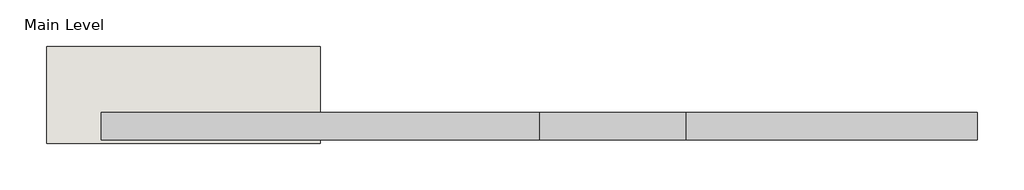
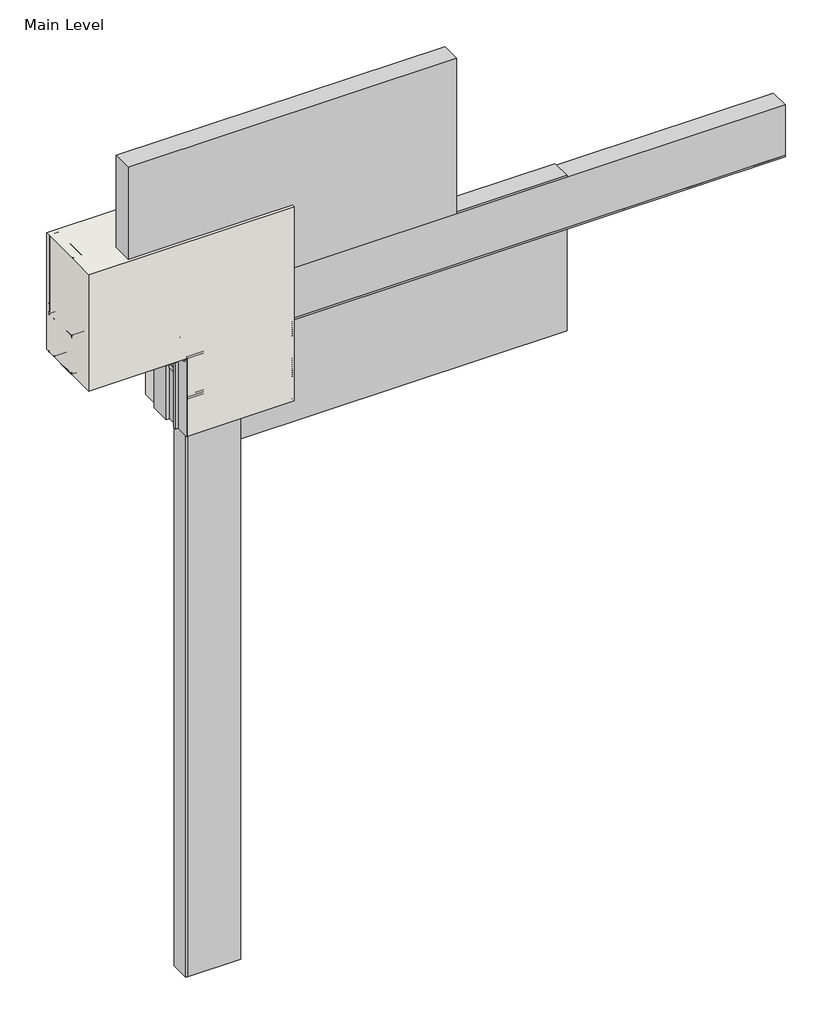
# One storey, incomplete: 20 proxies, 1 wall.
"""IFC4 building model written with IfcOpenShell, lengths in millimetres."""

from ifc_helpers import new_model, si_unit, frame, origin, place, context, project, spatial, polyline, outline, extrude, transform, mapped, element, save
from components import generic_models_31547c53, generic_models_0795693d, generic_models_cb092f88, generic_models_04f31e3c, generic_models_08e6521c, generic_models_d28646c3, proxy_4c3b85e5, proxy_81afb05a, proxy_e5e434bb, finish_coat_filler_finish_coat_filler_f99f7fa1, masonry_sill_masonry_sill_2c722ada, masonry_sill1_masonry_sill_fe5a3651, masonry_sill2_masonry_sill_6ded4e80, proxy_a3fd9b0b, proxy_3a0ad636, proxy_0073da47, sealant_sealant_3a8dd322, window_header_window_header_abd4ef46, wood_blocking_5320d369

model = new_model("IFC4")

# Units and contexts
model_context = context("Model", 3, world=origin())
ifc_project = project(units=[si_unit("LENGTHUNIT", "METRE", prefix="MILLI")], contexts=[model_context])

# Site, building, storey
site = spatial("IfcSite", under=ifc_project)
building = spatial("IfcBuilding", under=site)
storey = spatial("IfcBuildingStorey", under=building, Name="Main Level", Elevation=0.0)

# Proxies
placement = place(None, origin())
generic_models_shape = generic_models_31547c53(model_context)
element("IfcBuildingElementProxy", 1, Name="Durabond Generic Model Sealant Vent : Durabond Generic Model Sealant Vent", ObjectType="Durabond Generic Model Sealant Vent : Durabond Generic Model Sealant Vent", at=placement, inside=storey, context=model_context, shape_type="MappedRepresentation", body=[
    mapped(generic_models_shape, transform((26800.7195523, 547.6393211, 304.2607023), x_axis=(1.0, 0.0, 0.0), y_axis=(0.0, 0.08715574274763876, -0.9961946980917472), z_axis=(0.0, 0.9961946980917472, 0.08715574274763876))),
])
generic_models_2_shape = generic_models_0795693d(model_context)
generic_models_3_shape = generic_models_cb092f88(model_context)
generic_models_4_shape = generic_models_04f31e3c(model_context)
generic_models_5_shape = generic_models_08e6521c(model_context)
element("IfcBuildingElementProxy", 2, Name="CRAi Generic Model Mesh Piece Face Based : CRAi Generic Model Mesh Piece Face Based", ObjectType="CRAi Generic Model Mesh Piece Face Based : CRAi Generic Model Mesh Piece Face Based", at=placement, inside=storey, context=model_context, shape_type="MappedRepresentation", body=[
    mapped(generic_models_2_shape, transform((27054.3226773, 541.9066297, 155.3366797), x_axis=(-1.0, 0.0, 0.0), y_axis=(0.0, 0.0, -1.0), z_axis=(0.0, -1.0, 0.0))),
    mapped(generic_models_3_shape, transform((27054.3226773, 541.9066297, 155.3366797), x_axis=(-1.0, 0.0, 0.0), y_axis=(0.0, 0.0, -1.0), z_axis=(0.0, -1.0, 0.0))),
    mapped(generic_models_4_shape, transform((27054.3226773, 541.9066297, 155.3366797), x_axis=(-1.0, 0.0, 0.0), y_axis=(0.0, 0.0, -1.0), z_axis=(0.0, -1.0, 0.0))),
    mapped(generic_models_5_shape, transform((27054.3226773, 541.9066297, 155.3366797), x_axis=(-1.0, 0.0, 0.0), y_axis=(0.0, 0.0, -1.0), z_axis=(0.0, -1.0, 0.0))),
])
generic_models_6_shape = generic_models_d28646c3(model_context)
element("IfcBuildingElementProxy", 3, Name="CRAi Generic Model Line Based Drip Deflector : CRAi Generic Model Line Based Drip Deflector", ObjectType="CRAi Generic Model Line Based Drip Deflector : CRAi Generic Model Line Based Drip Deflector", at=placement, inside=storey, context=model_context, shape_type="MappedRepresentation", body=[
    mapped(generic_models_6_shape, transform((26855.8851773, 541.5329375, 295.758643), x_axis=(0.0, 0.996194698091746, 0.08715574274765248), y_axis=(-1.0, 0.0, 0.0), z_axis=(0.0, -0.08715574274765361, 0.996194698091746))),
])
proxy_shape = proxy_4c3b85e5(model_context)
element("IfcBuildingElementProxy", 4, Name="Durabond Generic Model Equalite Select Boundary Board : 3\"", ObjectType="Durabond Generic Model Equalite Select Boundary Board : 3\"", at=placement, inside=storey, context=model_context, shape_type="MappedRepresentation", body=[
    mapped(proxy_shape, transform((26957.4851773, 624.4566297, -908.175778), x_axis=(0.0, 0.0, -1.0), y_axis=(1.0, 0.0, 0.0), z_axis=(0.0, -1.0, 0.0))),
])
proxy_2_shape = proxy_81afb05a(model_context)
element("IfcBuildingElementProxy", 5, Name="Durabond Generic Model Equalite Insulation Board : 3\"", ObjectType="Durabond Generic Model Equalite Insulation Board : 3\"", at=placement, inside=storey, context=model_context, shape_type="MappedRepresentation", body=[
    mapped(proxy_2_shape, transform((27251.1726773, 624.4566297, 819.024222), x_axis=(1.0, 0.0, 0.0), y_axis=(0.0, 0.0, 1.0), z_axis=(0.0, -1.0, 0.0))),
])
element("IfcBuildingElementProxy", 6, Name="Durabond Generic Model Equalite Insulation Board : 3\"", ObjectType="Durabond Generic Model Equalite Insulation Board : 3\"", at=placement, inside=storey, context=model_context, shape_type="MappedRepresentation", body=[
    mapped(proxy_2_shape, transform((27659.1601773, 624.4566297, 217.361722), x_axis=(1.0, 0.0, 0.0), y_axis=(0.0, 0.0, 1.0), z_axis=(0.0, -1.0, 0.0))),
])
proxy_3_shape = proxy_e5e434bb(model_context)
element("IfcBuildingElementProxy", 7, Name="Durabond Generic Model Equalite Vent Board : 3\"", ObjectType="Durabond Generic Model Equalite Vent Board : 3\"", at=placement, inside=storey, context=model_context, shape_type="MappedRepresentation", body=[
    mapped(proxy_3_shape, transform((27860.7726773, 624.4566297, 412.624222), x_axis=(1.0, 0.0, 0.0), y_axis=(0.0, 0.0, 1.0), z_axis=(0.0, -1.0, 0.0))),
])
finish_coat_filler_finish_coat_filler_shape = finish_coat_filler_finish_coat_filler_f99f7fa1(model_context)
element("IfcBuildingElementProxy", 8, Name="Finish Coat Filler : Finish Coat Filler", ObjectType="Finish Coat Filler : Finish Coat Filler", at=placement, inside=storey, context=model_context, shape_type="MappedRepresentation", body=[
    mapped(finish_coat_filler_finish_coat_filler_shape, transform((0.0, 0.0, 0.0), x_axis=(1.0, 0.0, 0.0), y_axis=(0.0, 1.0, 0.0), z_axis=(0.0, 0.0, 1.0))),
])
masonry_sill_masonry_sill_shape = masonry_sill_masonry_sill_2c722ada(model_context)
element("IfcBuildingElementProxy", 9, Name="Masonry Sill : Masonry Sill", ObjectType="Masonry Sill : Masonry Sill", at=placement, inside=storey, context=model_context, shape_type="MappedRepresentation", body=[
    mapped(masonry_sill_masonry_sill_shape, transform((0.0, 0.0, 0.0), x_axis=(1.0, 0.0, 0.0), y_axis=(0.0, 1.0, 0.0), z_axis=(0.0, 0.0, 1.0))),
])
masonry_sill1_masonry_sill_shape = masonry_sill1_masonry_sill_fe5a3651(model_context)
element("IfcBuildingElementProxy", 10, Name="Masonry Sill1 : Masonry Sill", ObjectType="Masonry Sill1 : Masonry Sill", at=placement, inside=storey, context=model_context, shape_type="MappedRepresentation", body=[
    mapped(masonry_sill1_masonry_sill_shape, transform((0.0, -6.35, 0.0), x_axis=(1.0, 0.0, 0.0), y_axis=(0.0, 1.0, 0.0), z_axis=(0.0, 0.0, 1.0))),
])
masonry_sill2_masonry_sill_shape = masonry_sill2_masonry_sill_6ded4e80(model_context)
element("IfcBuildingElementProxy", 11, Name="Masonry Sill2 : Masonry Sill", ObjectType="Masonry Sill2 : Masonry Sill", at=placement, inside=storey, context=model_context, shape_type="MappedRepresentation", body=[
    mapped(masonry_sill2_masonry_sill_shape, transform((0.0, 0.0, 0.0), x_axis=(1.0, 0.0, 0.0), y_axis=(0.0, 1.0, 0.0), z_axis=(0.0, 0.0, 1.0))),
])
proxy_4_shape = proxy_a3fd9b0b(model_context)
element("IfcBuildingElementProxy", 12, Name="CRAi Generic Model Metal Stud : Metal Framing Stud - 1\" x 3.5\"", ObjectType="CRAi Generic Model Metal Stud : Metal Framing Stud - 1\" x 3.5\"", at=placement, inside=storey, context=model_context, shape_type="MappedRepresentation", body=[
    mapped(proxy_4_shape, transform((26876.5226773, 726.0566297, 0.0), x_axis=(1.0, 0.0, 0.0), y_axis=(0.0, 1.0, 0.0), z_axis=(0.0, 0.0, 1.0))),
])
proxy_5_shape = proxy_3a0ad636(model_context)
element("IfcBuildingElementProxy", 13, Name="CRAi Generic Model Metal Stud : Metal Framing Stud - 1\" x 3.5\"", ObjectType="CRAi Generic Model Metal Stud : Metal Framing Stud - 1\" x 3.5\"", at=placement, inside=storey, context=model_context, shape_type="MappedRepresentation", body=[
    mapped(proxy_5_shape, transform((26508.2226773, 719.7066297, 0.0), x_axis=(-1.0, 0.0, 0.0), y_axis=(0.0, -1.0, 0.0), z_axis=(0.0, 0.0, 1.0))),
])
element("IfcBuildingElementProxy", 14, Name="CRAi Generic Model Metal Stud : Metal Framing Stud - 1\" x 3.5\"", ObjectType="CRAi Generic Model Metal Stud : Metal Framing Stud - 1\" x 3.5\"", at=placement, inside=storey, context=model_context, shape_type="MappedRepresentation", body=[
    mapped(proxy_5_shape, transform((26876.5226773, 719.7066297, 0.0), x_axis=(-1.0, 0.0, 0.0), y_axis=(0.0, -1.0, 0.0), z_axis=(0.0, 0.0, 1.0))),
])
proxy_6_shape = proxy_0073da47(model_context)
element("IfcBuildingElementProxy", 15, Name="CRAi Generic Model Metal Stud : Metal Framing Stud - 1\" x 3.5\"", ObjectType="CRAi Generic Model Metal Stud : Metal Framing Stud - 1\" x 3.5\"", at=placement, inside=storey, context=model_context, shape_type="MappedRepresentation", body=[
    mapped(proxy_6_shape, transform((26914.6226773, 719.7066297, 0.0), x_axis=(1.0, 0.0, 0.0), y_axis=(0.0, 1.0, 0.0), z_axis=(0.0, 0.0, 1.0))),
])
sealant_sealant_shape = sealant_sealant_3a8dd322(model_context)
element("IfcBuildingElementProxy", 16, Name="Sealant : Sealant", ObjectType="Sealant : Sealant", at=placement, inside=storey, context=model_context, shape_type="MappedRepresentation", body=[
    mapped(sealant_sealant_shape, transform((0.0, 0.0, 0.0), x_axis=(1.0, 0.0, 0.0), y_axis=(0.0, 1.0, 0.0), z_axis=(0.0, 0.0, 1.0))),
])
window_header_window_header_shape = window_header_window_header_abd4ef46(model_context)
element("IfcBuildingElementProxy", 17, Name="Window Header : Window Header", ObjectType="Window Header : Window Header", at=placement, inside=storey, context=model_context, shape_type="MappedRepresentation", body=[
    mapped(window_header_window_header_shape, transform((0.0, -6.35, 0.0), x_axis=(1.0, 0.0, 0.0), y_axis=(0.0, 1.0, 0.0), z_axis=(0.0, 0.0, 1.0))),
])
wood_blocking_shape = wood_blocking_5320d369(model_context)
element("IfcBuildingElementProxy", 18, Name="CRAi Generic Model Line Based Metal Framing Track : Wood Blocking", ObjectType="CRAi Generic Model Line Based Metal Framing Track : Wood Blocking", at=placement, inside=storey, context=model_context, shape_type="MappedRepresentation", body=[
    mapped(wood_blocking_shape, transform((26489.1726773, 643.5066297, 304.8), x_axis=(1.0, 0.0, 0.0), y_axis=(0.0, 1.0, 0.0), z_axis=(0.0, 0.0, 1.0))),
])
element("IfcBuildingElementProxy", 19, Name="CRAi Generic Model Line Based Metal Framing Track : Wood Blocking", ObjectType="CRAi Generic Model Line Based Metal Framing Track : Wood Blocking", at=placement, inside=storey, context=model_context, shape_type="MappedRepresentation", body=[
    mapped(wood_blocking_shape, transform((26489.1726773, 795.907101, 457.2), x_axis=(1.0, 0.0, 0.0), y_axis=(0.0, -1.0, 0.0), z_axis=(0.0, 0.0, -1.0))),
])
element("IfcBuildingElementProxy", 20, Name="CRAi Generic Model Line Based Metal Framing Track : Wood Blocking", ObjectType="CRAi Generic Model Line Based Metal Framing Track : Wood Blocking", at=placement, inside=storey, context=model_context, shape_type="MappedRepresentation", body=[
    mapped(wood_blocking_shape, transform((26489.1726773, 643.5066297, 457.2), x_axis=(1.0, 0.0, 0.0), y_axis=(0.0, 1.0, 0.0), z_axis=(0.0, 0.0, 1.0))),
])

# Wall
element("IfcWall", 21, ObjectType="189mm (7.5”) EIFS Field Applied on Mtl. Stud Layer - 50mm Grooved Insulation Board Metal Stud Wall(AirStop) 2", at=placement, inside=storey, context=model_context, shape_type="SweptSolid", body=[
    extrude(outline(polyline([(0.0, 27251.1726773), (762.0, 27251.1726773), (762.0, 26489.1726773), (304.8, 26489.1726773), (304.8, 26857.4726773), (0.0, 26857.4726773), (0.0, 27251.1726773)])), frame((0.0, 538.7316297, 0.0), z_axis=(0.0, 1.0, 0.0), x_axis=(0.0, 0.0, 1.0)), (0.0, 0.0, 1.0), 269.875),
])

save(model, "model.ifc")
